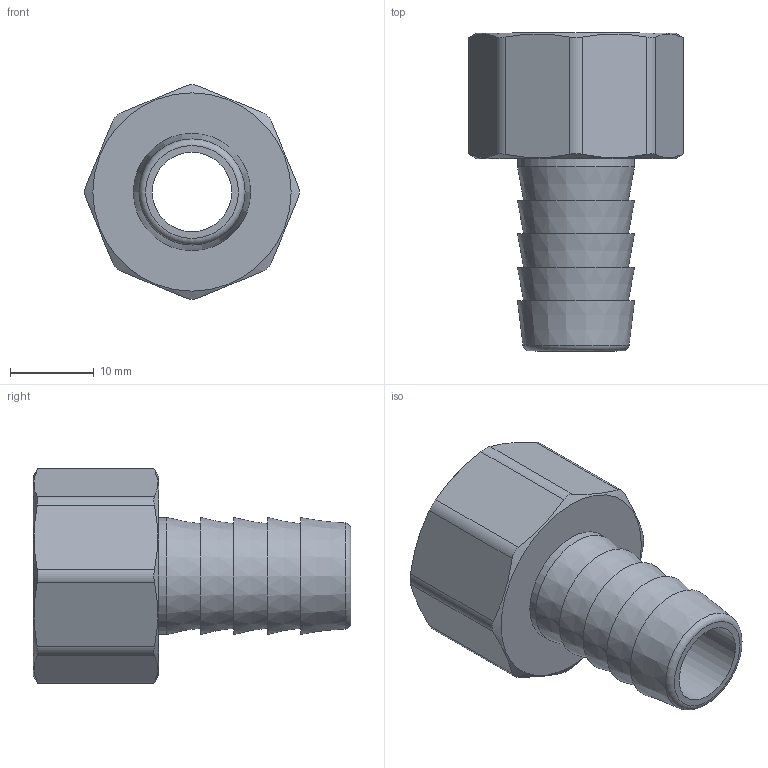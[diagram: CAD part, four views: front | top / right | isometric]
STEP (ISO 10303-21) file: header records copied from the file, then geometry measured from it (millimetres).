
FILE_DESCRIPTION(('STEP AP203'), '1');
FILE_NAME('覆.753154.013 - VTr.654.N.0414 幄鼭歑', '2024-08-02T07:35:05', ('Boss'), (''), 'C3D Converter', 'C3D Toolkit', '');
FILE_SCHEMA(('CONFIG_CONTROL_DESIGN'));
Length unit declared in the file: millimetre
Products named in the file (1): ВР.753154.013
Bounding box: 25.65 x 38 x 25.65 mm (x, y, z)
Volume: 5136.9 mm3; surface area: 4439.3 mm2
Topology: 1 solids, 1 shells, 37 faces, 84 edges, 55 vertices
Faces by surface type: plane 16, cylinder 11, cone 9, torus 1
Full cylindrical faces by diameter (mm): 9.5 x1, 14 x1, 18.632 x1
Entity records: 1995 total; most frequent: CARTESIAN_POINT 1222, ORIENTED_EDGE 142, DIRECTION 134, EDGE_CURVE 71, AXIS2_PLACEMENT_3D 59, EDGE_LOOP 58, VERTEX_POINT 55, ADVANCED_FACE 37
